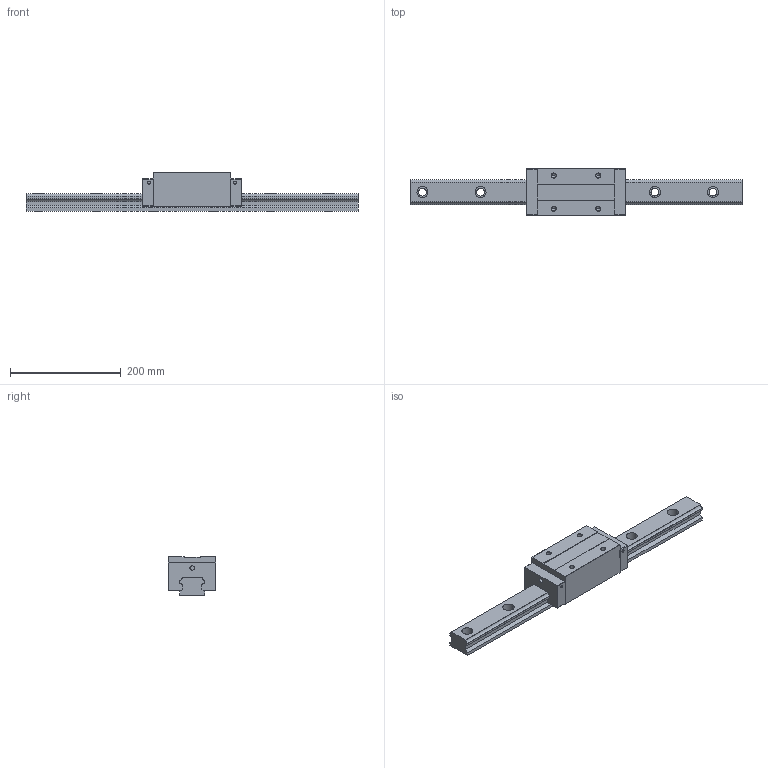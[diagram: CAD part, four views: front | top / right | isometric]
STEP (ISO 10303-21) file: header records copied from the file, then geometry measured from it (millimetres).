
FILE_DESCRIPTION (( 'STEP AP203' ), '1' );
FILE_NAME ('TRH45VE-SU.STEP', '2024-06-26T05:40:54', ( '' ), ( '' ), 'SwSTEP 2.0', 'SolidWorks 2022', '' );
FILE_SCHEMA (( 'CONFIG_CONTROL_DESIGN' ));
Length unit declared in the file: millimetre
Products named in the file (1): TRH45VE-SU
Bounding box: 600 x 85.5 x 70 mm (x, y, z)
Volume: 1439634.5 mm3; surface area: 179078.8 mm2
Topology: 2 solids, 2 shells, 180 faces, 472 edges, 304 vertices
Faces by surface type: plane 84, cylinder 80, cone 16
Entity records: 5607 total; most frequent: DIRECTION 994, CARTESIAN_POINT 949, ORIENTED_EDGE 928, EDGE_CURVE 464, AXIS2_PLACEMENT_3D 349, VERTEX_POINT 304, VECTOR 296, LINE 296
